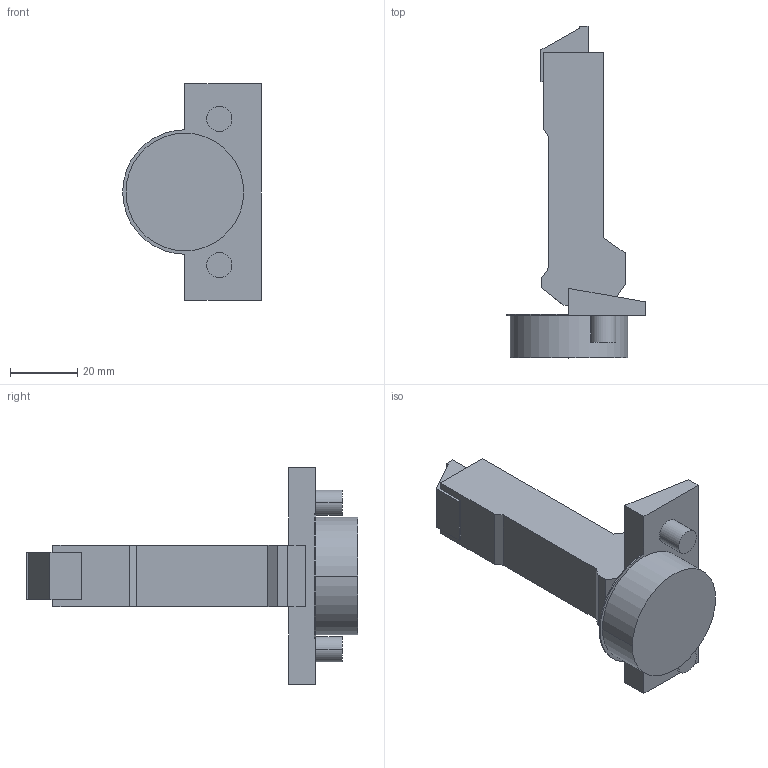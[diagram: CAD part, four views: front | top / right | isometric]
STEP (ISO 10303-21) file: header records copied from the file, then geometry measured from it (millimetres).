
FILE_DESCRIPTION (( 'STEP AP214' ), '1' );
FILE_NAME ('Scharnier TT Impresso 120° GB_BB, K95.step', '2010-12-06T09:57:44', ( 'grass' ), ( '' ), 'SwSTEP 2.0', 'SolidWorks 2010', '' );
FILE_SCHEMA (( 'AUTOMOTIVE_DESIGN' ));
Length unit declared in the file: millimetre
Products named in the file (1): Scharnier TT Impresso 120° GB_BB, K95
Bounding box: 41.25 x 98.7 x 64.5 mm (x, y, z)
Volume: 46643.4 mm3; surface area: 12840.1 mm2
Topology: 1 solids, 3 shells, 59 faces, 141 edges, 94 vertices
Faces by surface type: plane 42, cylinder 17
Entity records: 1739 total; most frequent: DIRECTION 295, CARTESIAN_POINT 295, ORIENTED_EDGE 282, EDGE_CURVE 141, LINE 107, VECTOR 107, AXIS2_PLACEMENT_3D 94, VERTEX_POINT 94
